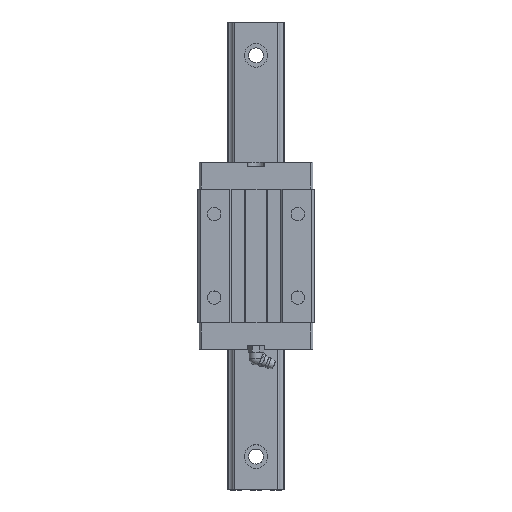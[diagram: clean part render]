
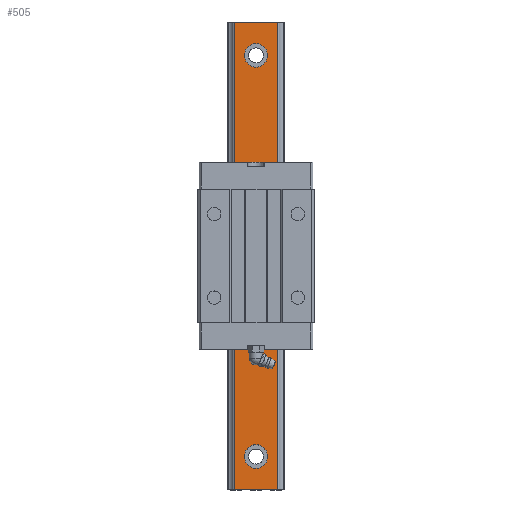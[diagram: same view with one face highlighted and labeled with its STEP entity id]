
A CAD part, top view. The second image highlights one B-rep face of the part: STEP entity #505.
In plain terms, the highlighted planar face has unit normal (0, 0, 1).
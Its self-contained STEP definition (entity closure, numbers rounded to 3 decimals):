
#242=FACE_BOUND('',#1013,.T.);
#243=FACE_BOUND('',#1014,.T.);
#244=FACE_BOUND('',#1016,.T.);
#245=FACE_BOUND('',#1017,.T.);
#338=CIRCLE('',#3533,7.);
#339=CIRCLE('',#3534,7.);
#340=CIRCLE('',#3535,7.);
#341=CIRCLE('',#3536,7.);
#505=ADVANCED_FACE('',(#242,#243,#805,#244,#245),#664,.F.);
#664=PLANE('',#3537);
#805=FACE_OUTER_BOUND('',#1015,.T.);
#1013=EDGE_LOOP('',(#1598));
#1014=EDGE_LOOP('',(#1599));
#1015=EDGE_LOOP('',(#1600,#1601,#1602,#1603));
#1016=EDGE_LOOP('',(#1604));
#1017=EDGE_LOOP('',(#1605));
#1598=ORIENTED_EDGE('',*,*,#2579,.F.);
#1599=ORIENTED_EDGE('',*,*,#2580,.F.);
#1600=ORIENTED_EDGE('',*,*,#2581,.T.);
#1601=ORIENTED_EDGE('',*,*,#2582,.F.);
#1602=ORIENTED_EDGE('',*,*,#2583,.F.);
#1603=ORIENTED_EDGE('',*,*,#2584,.T.);
#1604=ORIENTED_EDGE('',*,*,#2585,.F.);
#1605=ORIENTED_EDGE('',*,*,#2586,.F.);
#2198=VERTEX_POINT('',#5174);
#2199=VERTEX_POINT('',#5176);
#2200=VERTEX_POINT('',#5178);
#2201=VERTEX_POINT('',#5179);
#2202=VERTEX_POINT('',#5181);
#2203=VERTEX_POINT('',#5183);
#2204=VERTEX_POINT('',#5186);
#2205=VERTEX_POINT('',#5188);
#2579=EDGE_CURVE('',#2198,#2198,#338,.T.);
#2580=EDGE_CURVE('',#2199,#2199,#339,.T.);
#2581=EDGE_CURVE('',#2200,#2201,#2949,.T.);
#2582=EDGE_CURVE('',#2202,#2201,#2950,.T.);
#2583=EDGE_CURVE('',#2203,#2202,#2951,.T.);
#2584=EDGE_CURVE('',#2203,#2200,#2952,.T.);
#2585=EDGE_CURVE('',#2204,#2204,#340,.T.);
#2586=EDGE_CURVE('',#2205,#2205,#341,.T.);
#2949=LINE('',#5177,#3239);
#2950=LINE('',#5180,#3240);
#2951=LINE('',#5182,#3241);
#2952=LINE('',#5184,#3242);
#3239=VECTOR('',#4231,1.);
#3240=VECTOR('',#4232,1.);
#3241=VECTOR('',#4233,1.);
#3242=VECTOR('',#4234,1.);
#3533=AXIS2_PLACEMENT_3D('',#5173,#4227,#4228);
#3534=AXIS2_PLACEMENT_3D('',#5175,#4229,#4230);
#3535=AXIS2_PLACEMENT_3D('',#5185,#4235,#4236);
#3536=AXIS2_PLACEMENT_3D('',#5187,#4237,#4238);
#3537=AXIS2_PLACEMENT_3D('',#5189,#4239,#4240);
#4227=DIRECTION('',(0.,0.,1.));
#4228=DIRECTION('',(0.,1.,0.));
#4229=DIRECTION('',(0.,0.,1.));
#4230=DIRECTION('',(0.,1.,0.));
#4231=DIRECTION('',(1.,0.,0.));
#4232=DIRECTION('',(0.,-1.,0.));
#4233=DIRECTION('',(1.,0.,0.));
#4234=DIRECTION('',(0.,-1.,0.));
#4235=DIRECTION('',(0.,0.,1.));
#4236=DIRECTION('',(0.,1.,0.));
#4237=DIRECTION('',(0.,0.,1.));
#4238=DIRECTION('',(0.,1.,0.));
#4239=DIRECTION('',(0.,0.,-1.));
#4240=DIRECTION('',(-1.,0.,0.));
#5173=CARTESIAN_POINT('',(0.,180.,27.4));
#5174=CARTESIAN_POINT('',(0.,187.,27.4));
#5175=CARTESIAN_POINT('',(0.,20.,27.4));
#5176=CARTESIAN_POINT('',(0.,27.,27.4));
#5177=CARTESIAN_POINT('',(-13.15,0.,27.4));
#5178=CARTESIAN_POINT('',(-13.15,0.,27.4));
#5179=CARTESIAN_POINT('',(13.15,0.,27.4));
#5180=CARTESIAN_POINT('',(13.15,280.,27.4));
#5181=CARTESIAN_POINT('',(13.15,280.,27.4));
#5182=CARTESIAN_POINT('',(-13.15,280.,27.4));
#5183=CARTESIAN_POINT('',(-13.15,280.,27.4));
#5184=CARTESIAN_POINT('',(-13.15,280.,27.4));
#5185=CARTESIAN_POINT('',(0.,100.,27.4));
#5186=CARTESIAN_POINT('',(0.,107.,27.4));
#5187=CARTESIAN_POINT('',(0.,260.,27.4));
#5188=CARTESIAN_POINT('',(0.,267.,27.4));
#5189=CARTESIAN_POINT('',(-13.15,280.,27.4));
